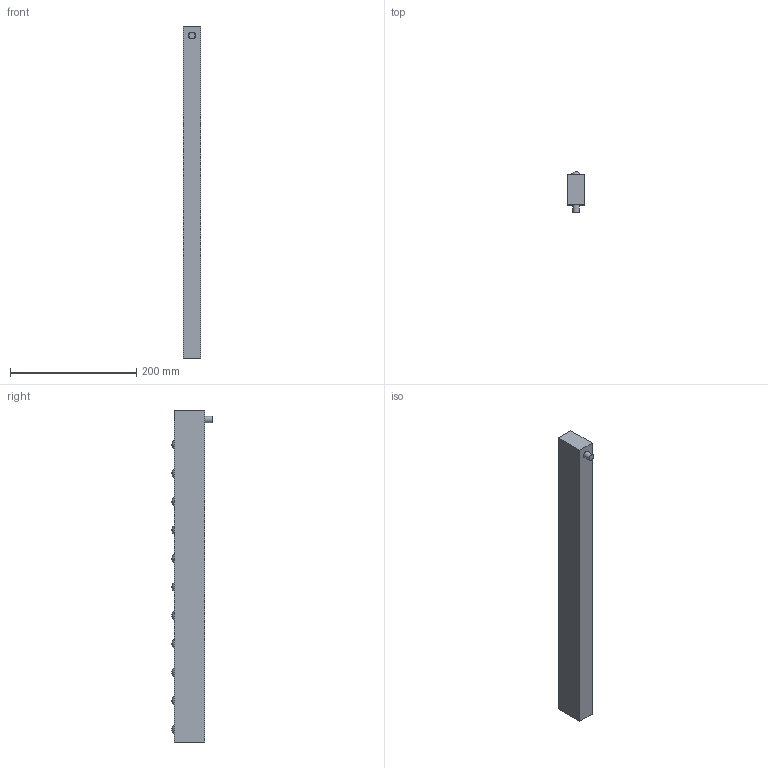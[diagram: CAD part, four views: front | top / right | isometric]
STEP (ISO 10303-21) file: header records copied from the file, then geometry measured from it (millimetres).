
FILE_DESCRIPTION(/* description */ (''),/* implementation_level */ '2;1');
FILE_NAME(/* name */ 'V:\Shrinkwrap\EMB\EMB - SHRINKWRAP\EMP28\EMB28-11_Shrinkwrap_1.stp',/* time_stamp */ '2022-08-12T11:25:01+02:00',/* author */ ('cw'),/* organization */ (''),/* preprocessor_version */ 'ST-DEVELOPER v17',/* originating_system */ 'Autodesk Inventor 2019',/* authorisation */ '');
FILE_SCHEMA (('AUTOMOTIVE_DESIGN { 1 0 10303 214 3 1 1 }','AP242_MANAGED_MODEL_BASED_3D_ENGINEERING_MIM_LF { 1 0 10303 442 1 1 4 }'));
Length unit declared in the file: millimetre
Products named in the file (1): EMB28-11_Shrinkwrap_1
Bounding box: 27.8 x 64.05 x 525 mm (x, y, z)
Volume: 696488 mm3; surface area: 86422 mm2
Topology: 1 solids, 1 shells, 47 faces, 87 edges, 70 vertices
Faces by surface type: plane 21, cylinder 15, sphere 11
Full cylindrical faces by diameter (mm): 10 x1, 11 x1, 16 x1, 18 x1, 21.5 x11
Entity records: 1353 total; most frequent: DIRECTION 239, CARTESIAN_POINT 203, ORIENTED_EDGE 170, AXIS2_PLACEMENT_3D 106, EDGE_CURVE 85, EDGE_LOOP 73, VERTEX_POINT 66, CIRCLE 58
